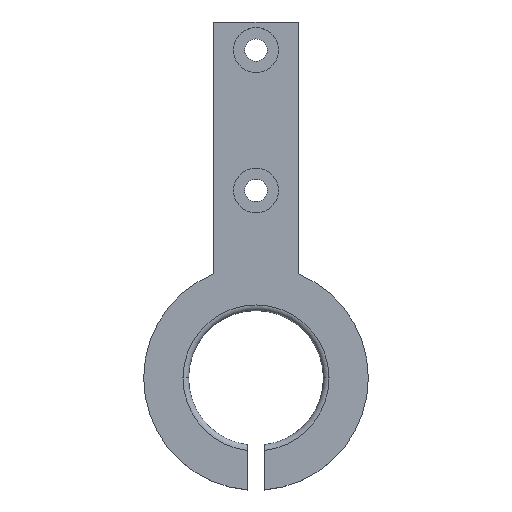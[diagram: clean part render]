
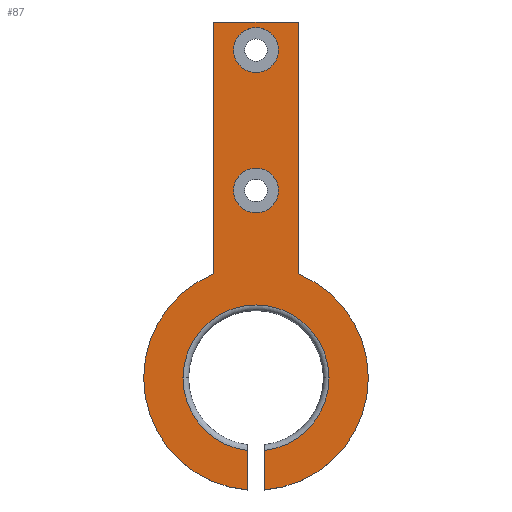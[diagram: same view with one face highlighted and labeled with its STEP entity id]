
A CAD part, top view. The second image highlights one B-rep face of the part: STEP entity #87.
In plain terms, the highlighted planar face has unit normal (0, 0, 1).
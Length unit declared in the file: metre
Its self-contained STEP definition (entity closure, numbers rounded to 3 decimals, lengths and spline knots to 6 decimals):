
#87=ADVANCED_FACE('',(#130,#131,#132),#133,.T.);
#130=FACE_OUTER_BOUND('',#196,.T.);
#131=FACE_BOUND('',#197,.T.);
#132=FACE_BOUND('',#198,.T.);
#133=PLANE('',#199);
#196=EDGE_LOOP('',(#322,#323,#324,#325,#326,#327,#328,#329,#330,#331,#332,#333));
#197=EDGE_LOOP('',(#334,#335));
#198=EDGE_LOOP('',(#336,#337));
#199=AXIS2_PLACEMENT_3D('',#338,#339,#340);
#322=ORIENTED_EDGE('',*,*,#520,.F.);
#323=ORIENTED_EDGE('',*,*,#521,.F.);
#324=ORIENTED_EDGE('',*,*,#522,.F.);
#325=ORIENTED_EDGE('',*,*,#519,.F.);
#326=ORIENTED_EDGE('',*,*,#523,.F.);
#327=ORIENTED_EDGE('',*,*,#524,.F.);
#328=ORIENTED_EDGE('',*,*,#525,.F.);
#329=ORIENTED_EDGE('',*,*,#477,.F.);
#330=ORIENTED_EDGE('',*,*,#526,.F.);
#331=ORIENTED_EDGE('',*,*,#527,.F.);
#332=ORIENTED_EDGE('',*,*,#505,.F.);
#333=ORIENTED_EDGE('',*,*,#508,.F.);
#334=ORIENTED_EDGE('',*,*,#528,.F.);
#335=ORIENTED_EDGE('',*,*,#493,.F.);
#336=ORIENTED_EDGE('',*,*,#529,.F.);
#337=ORIENTED_EDGE('',*,*,#485,.F.);
#338=CARTESIAN_POINT('',(0.0,0.0,0.005));
#339=DIRECTION('',(0.0,0.0,1.0));
#340=DIRECTION('',(1.0,0.0,0.0));
#477=EDGE_CURVE('',#550,#553,#554,.T.);
#485=EDGE_CURVE('',#566,#569,#570,.T.);
#493=EDGE_CURVE('',#582,#585,#586,.T.);
#505=EDGE_CURVE('',#606,#608,#609,.T.);
#508=EDGE_CURVE('',#611,#606,#613,.T.);
#519=EDGE_CURVE('',#629,#625,#631,.T.);
#520=EDGE_CURVE('',#632,#611,#633,.T.);
#521=EDGE_CURVE('',#634,#632,#635,.T.);
#522=EDGE_CURVE('',#625,#634,#636,.T.);
#523=EDGE_CURVE('',#637,#629,#638,.T.);
#524=EDGE_CURVE('',#639,#637,#640,.T.);
#525=EDGE_CURVE('',#553,#639,#641,.T.);
#526=EDGE_CURVE('',#642,#550,#643,.T.);
#527=EDGE_CURVE('',#608,#642,#644,.T.);
#528=EDGE_CURVE('',#585,#582,#645,.T.);
#529=EDGE_CURVE('',#569,#566,#646,.T.);
#550=VERTEX_POINT('',#672);
#553=VERTEX_POINT('',#676);
#554=CIRCLE('',#677,0.02);
#566=VERTEX_POINT('',#692);
#569=VERTEX_POINT('',#696);
#570=CIRCLE('',#697,0.004);
#582=VERTEX_POINT('',#712);
#585=VERTEX_POINT('',#716);
#586=CIRCLE('',#717,0.004);
#606=VERTEX_POINT('',#742);
#608=VERTEX_POINT('',#744);
#609=CIRCLE('',#745,0.013);
#611=VERTEX_POINT('',#768);
#613=CIRCLE('',#770,0.013);
#625=VERTEX_POINT('',#803);
#629=VERTEX_POINT('',#808);
#631=CIRCLE('',#811,0.02);
#632=VERTEX_POINT('',#812);
#633=CIRCLE('',#813,0.013);
#634=VERTEX_POINT('',#814);
#635=LINE('',#815,#816);
#636=CIRCLE('',#817,0.02);
#637=VERTEX_POINT('',#818);
#638=LINE('',#819,#820);
#639=VERTEX_POINT('',#821);
#640=LINE('',#822,#823);
#641=LINE('',#824,#825);
#642=VERTEX_POINT('',#826);
#643=CIRCLE('',#827,0.02);
#644=LINE('',#828,#829);
#645=CIRCLE('',#830,0.004);
#646=CIRCLE('',#831,0.004);
#672=CARTESIAN_POINT('',(-0.0125,-0.04838,0.005));
#676=CARTESIAN_POINT('',(0.,-0.02984,0.005));
#677=AXIS2_PLACEMENT_3D('',#909,#910,#911);
#692=CARTESIAN_POINT('',(0.0035,-0.015,0.005));
#696=CARTESIAN_POINT('',(0.0115,-0.015,0.005));
#697=AXIS2_PLACEMENT_3D('',#925,#926,#927);
#712=CARTESIAN_POINT('',(0.0035,0.01,0.005));
#716=CARTESIAN_POINT('',(0.0115,0.01,0.005));
#717=AXIS2_PLACEMENT_3D('',#941,#942,#943);
#742=CARTESIAN_POINT('',(-0.0055,-0.04838,0.005));
#744=CARTESIAN_POINT('',(0.006,-0.061293,0.005));
#745=AXIS2_PLACEMENT_3D('',#967,#968,#969);
#768=CARTESIAN_POINT('',(0.0205,-0.04838,0.005));
#770=AXIS2_PLACEMENT_3D('',#973,#974,#975);
#803=CARTESIAN_POINT('',(0.0275,-0.04838,0.005));
#808=CARTESIAN_POINT('',(0.015,-0.02984,0.005));
#811=AXIS2_PLACEMENT_3D('',#999,#1000,#1001);
#812=CARTESIAN_POINT('',(0.009,-0.061293,0.005));
#813=AXIS2_PLACEMENT_3D('',#1002,#1003,#1004);
#814=CARTESIAN_POINT('',(0.009,-0.068324,0.005));
#815=CARTESIAN_POINT('',(0.009,-0.06088,0.005));
#816=VECTOR('',#1005,1.0);
#817=AXIS2_PLACEMENT_3D('',#1006,#1007,#1008);
#818=CARTESIAN_POINT('',(0.015,0.015,0.005));
#819=CARTESIAN_POINT('',(0.015,0.0,0.005));
#820=VECTOR('',#1009,1.0);
#821=CARTESIAN_POINT('',(0.0,0.015,0.005));
#822=CARTESIAN_POINT('',(0.00375,0.015,0.005));
#823=VECTOR('',#1010,1.0);
#824=CARTESIAN_POINT('',(0.0,-0.03,0.005));
#825=VECTOR('',#1011,1.0);
#826=CARTESIAN_POINT('',(0.006,-0.068324,0.005));
#827=AXIS2_PLACEMENT_3D('',#1012,#1013,#1014);
#828=CARTESIAN_POINT('',(0.006,-0.05244,0.005));
#829=VECTOR('',#1015,1.0);
#830=AXIS2_PLACEMENT_3D('',#1016,#1017,#1018);
#831=AXIS2_PLACEMENT_3D('',#1019,#1020,#1021);
#909=CARTESIAN_POINT('',(0.0075,-0.04838,0.005));
#910=DIRECTION('',(0.0,0.0,-1.0));
#911=DIRECTION('',(1.0,0.0,0.0));
#925=CARTESIAN_POINT('',(0.0075,-0.015,0.005));
#926=DIRECTION('',(0.0,0.0,1.0));
#927=DIRECTION('',(1.0,0.0,-0.0));
#941=CARTESIAN_POINT('',(0.0075,0.01,0.005));
#942=DIRECTION('',(0.0,0.0,1.0));
#943=DIRECTION('',(1.0,0.0,-0.0));
#967=CARTESIAN_POINT('',(0.0075,-0.04838,0.005));
#968=DIRECTION('',(0.0,0.0,1.0));
#969=DIRECTION('',(0.,1.0,0.0));
#973=CARTESIAN_POINT('',(0.0075,-0.04838,0.005));
#974=DIRECTION('',(0.0,0.0,1.0));
#975=DIRECTION('',(0.,1.0,0.0));
#999=CARTESIAN_POINT('',(0.0075,-0.04838,0.005));
#1000=DIRECTION('',(0.0,0.0,-1.0));
#1001=DIRECTION('',(1.0,0.0,0.0));
#1002=CARTESIAN_POINT('',(0.0075,-0.04838,0.005));
#1003=DIRECTION('',(0.0,0.0,1.0));
#1004=DIRECTION('',(0.,1.0,0.0));
#1005=DIRECTION('',(0.0,1.0,0.0));
#1006=CARTESIAN_POINT('',(0.0075,-0.04838,0.005));
#1007=DIRECTION('',(0.0,0.0,-1.0));
#1008=DIRECTION('',(1.0,0.0,0.0));
#1009=DIRECTION('',(0.0,-1.0,0.0));
#1010=DIRECTION('',(1.0,0.0,0.0));
#1011=DIRECTION('',(0.0,1.0,0.0));
#1012=CARTESIAN_POINT('',(0.0075,-0.04838,0.005));
#1013=DIRECTION('',(0.0,0.0,-1.0));
#1014=DIRECTION('',(1.0,0.0,0.0));
#1015=DIRECTION('',(0.,-1.0,0.0));
#1016=CARTESIAN_POINT('',(0.0075,0.01,0.005));
#1017=DIRECTION('',(0.0,0.0,1.0));
#1018=DIRECTION('',(1.0,0.0,-0.0));
#1019=CARTESIAN_POINT('',(0.0075,-0.015,0.005));
#1020=DIRECTION('',(0.0,0.0,1.0));
#1021=DIRECTION('',(1.0,0.0,-0.0));
